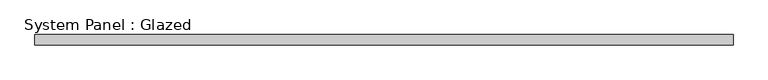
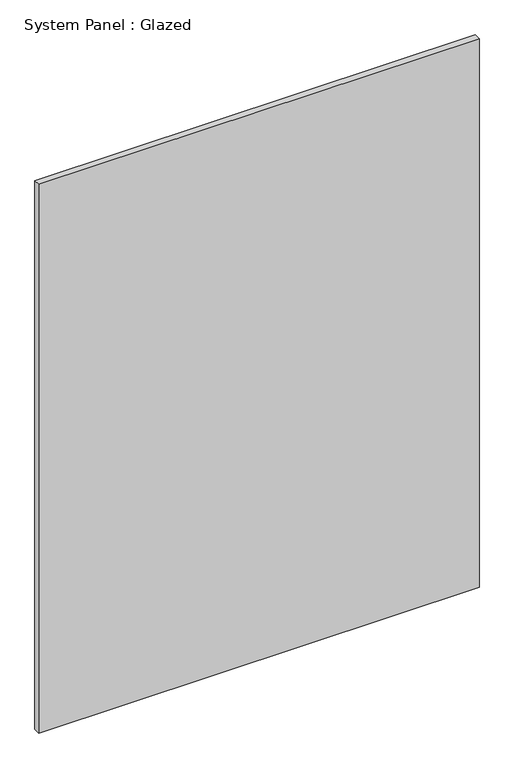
"""IFC4 building model written with IfcOpenShell, lengths in millimetres: plate geometry, System Panel : Glazed."""

from ifc_helpers import new_model, si_unit, origin, origin_with_axes, place, context, project, spatial, polyline, outline, extrude, source, transform, mapped, element, save


def system_panel_glazed_540ba77c(model_context):
    return source(origin(), model_context, "Body", "SweptSolid", [
        extrude(outline(polyline([(876.1236512, 19.05), (-876.1236512, 19.05), (-876.1236512, 44.45), (876.1236512, 44.45), (876.1236512, 19.05)])), origin_with_axes(), (0.0, 0.0, 1.0), 2307.6414857),
    ])


if __name__ == "__main__":
    model = new_model("IFC4")
    model_context = context("Model", 3, world=origin())
    ifc_project = project(units=[si_unit("LENGTHUNIT", "METRE", prefix="MILLI")], contexts=[model_context])
    site = spatial("IfcSite", under=ifc_project)
    building = spatial("IfcBuilding", under=site)
    placement = place(None, origin())
    system_panel_glazed_shape = system_panel_glazed_540ba77c(model_context)
    element("IfcPlate", 1, ObjectType="System Panel : Glazed", at=placement, inside=building, context=model_context, shape_type="MappedRepresentation", body=[
        mapped(system_panel_glazed_shape, transform((0.0, 0.0, 0.0), x_axis=(1.0, 0.0, 0.0), y_axis=(0.0, 1.0, 0.0), z_axis=(0.0, 0.0, 1.0))),
    ])
    save(model, "model.ifc")
